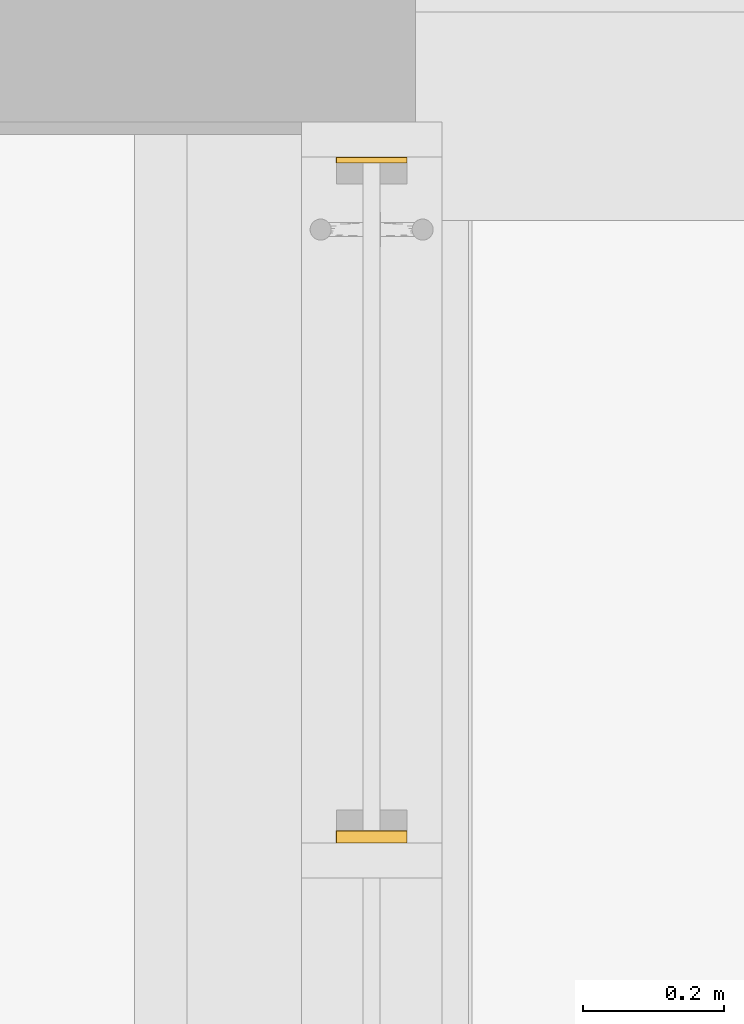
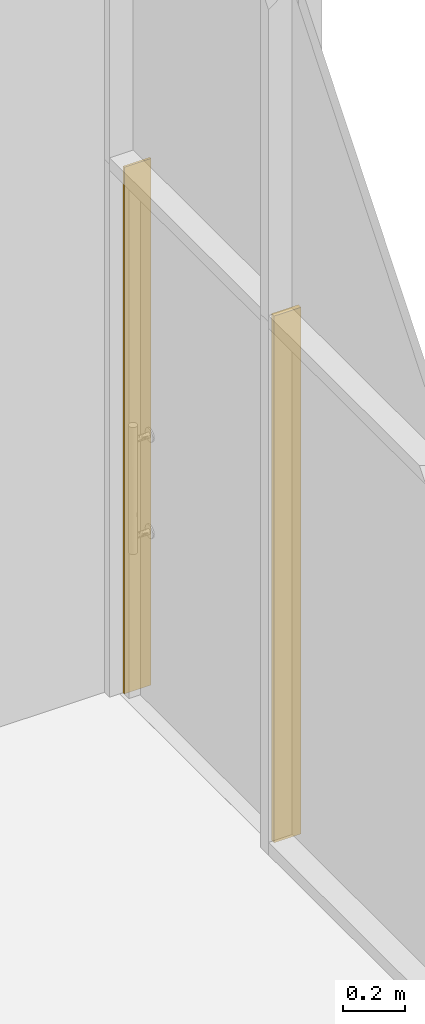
# One storey, part 79 of 100: 1 curtain wall, 1 opening, 1 element without a shape of its own.
"""IFC2X3 building model written with IfcOpenShell, lengths in millimetres."""

from ifc_helpers import new_model, entity, si_unit, converted_unit, derived_unit, direction, frame, frame_2d, origin, place, context, subcontext, project, spatial, rectangle, extrude, material, layer, layer_set, layer_usage, type_object, element, aggregate, save


model = new_model("IFC2X3")

# Units and contexts
model_context = context("Model", 3, precision=0.01, world=origin(), true_north=direction((6.123031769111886e-17, 1.0)))
body_context = subcontext(model_context, "Body", "Model", "MODEL_VIEW")
ifc_project = project(units=[si_unit("LENGTHUNIT", "METRE", prefix="MILLI"), si_unit("AREAUNIT", "SQUARE_METRE"), si_unit("VOLUMEUNIT", "CUBIC_METRE"), converted_unit("PLANEANGLEUNIT", "DEGREE", entity("IfcRatioMeasure", 0.017453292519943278), si_unit("PLANEANGLEUNIT", "RADIAN"), dimensions=[0, 0, 0, 0, 0, 0, 0]), si_unit("MASSUNIT", "GRAM", prefix="KILO"), derived_unit("MASSDENSITYUNIT", [(si_unit("MASSUNIT", "GRAM", prefix="KILO"), 1), (si_unit("LENGTHUNIT", "METRE"), -3)]), derived_unit("MOMENTOFINERTIAUNIT", [(si_unit("LENGTHUNIT", "METRE"), 4)]), si_unit("TIMEUNIT", "SECOND"), si_unit("FREQUENCYUNIT", "HERTZ"), si_unit("THERMODYNAMICTEMPERATUREUNIT", "DEGREE_CELSIUS"), derived_unit("THERMALTRANSMITTANCEUNIT", [(si_unit("MASSUNIT", "GRAM", prefix="KILO"), 1), (si_unit("THERMODYNAMICTEMPERATUREUNIT", "KELVIN"), -1), (si_unit("TIMEUNIT", "SECOND"), -3)]), derived_unit("VOLUMETRICFLOWRATEUNIT", [(si_unit("LENGTHUNIT", "METRE"), 3), (si_unit("TIMEUNIT", "SECOND"), -1)]), derived_unit("MASSFLOWRATEUNIT", [(si_unit("MASSUNIT", "GRAM", prefix="KILO"), 1), (si_unit("TIMEUNIT", "SECOND"), -1)]), derived_unit("ROTATIONALFREQUENCYUNIT", [(si_unit("TIMEUNIT", "SECOND"), -1)]), si_unit("ELECTRICCURRENTUNIT", "AMPERE"), si_unit("ELECTRICVOLTAGEUNIT", "VOLT"), si_unit("POWERUNIT", "WATT"), si_unit("FORCEUNIT", "NEWTON", prefix="KILO"), si_unit("ILLUMINANCEUNIT", "LUX"), si_unit("LUMINOUSFLUXUNIT", "LUMEN"), si_unit("LUMINOUSINTENSITYUNIT", "CANDELA"), derived_unit("USERDEFINED", [(si_unit("MASSUNIT", "GRAM", prefix="KILO"), -1), (si_unit("LENGTHUNIT", "METRE"), -2), (si_unit("TIMEUNIT", "SECOND"), 3), (si_unit("LUMINOUSFLUXUNIT", "LUMEN"), 1)]), derived_unit("SOUNDPOWERUNIT", [(si_unit("MASSUNIT", "GRAM", prefix="KILO"), 1), (si_unit("LENGTHUNIT", "METRE"), 2), (si_unit("TIMEUNIT", "SECOND"), -3)]), derived_unit("SOUNDPRESSUREUNIT", [(si_unit("MASSUNIT", "GRAM", prefix="KILO"), 1), (si_unit("LENGTHUNIT", "METRE"), -1), (si_unit("TIMEUNIT", "SECOND"), -2)]), derived_unit("LINEARVELOCITYUNIT", [(si_unit("LENGTHUNIT", "METRE"), 1), (si_unit("TIMEUNIT", "SECOND"), -1)]), si_unit("PRESSUREUNIT", "PASCAL"), derived_unit("USERDEFINED", [(si_unit("LENGTHUNIT", "METRE"), -2), (si_unit("MASSUNIT", "GRAM", prefix="KILO"), 1), (si_unit("TIMEUNIT", "SECOND"), -2)]), derived_unit("LINEARFORCEUNIT", [(si_unit("MASSUNIT", "GRAM", prefix="KILO"), 1), (si_unit("LENGTHUNIT", "METRE"), 1), (si_unit("TIMEUNIT", "SECOND"), -2), (si_unit("LENGTHUNIT", "METRE"), -1)]), derived_unit("PLANARFORCEUNIT", [(si_unit("MASSUNIT", "GRAM", prefix="KILO"), 1), (si_unit("LENGTHUNIT", "METRE"), 1), (si_unit("TIMEUNIT", "SECOND"), -2), (si_unit("LENGTHUNIT", "METRE"), -2)])], contexts=[model_context])

# Site, building, storey
site_placement = place(None, frame((-14167.972527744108, -657.2125860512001, 0.0)))
site = spatial("IfcSite", under=ifc_project, at=site_placement, Name="Default", CompositionType="ELEMENT")
building_placement = place(site_placement, origin())
building = spatial("IfcBuilding", under=site, at=building_placement, Name="Sample Building", CompositionType="ELEMENT")
storey_placement = place(building_placement, origin())
storey = spatial("IfcBuildingStorey", under=building, at=storey_placement, Name="지상 1층", CompositionType="ELEMENT", Elevation=0.0)

# Curtain walls, opening
curtain_wall_type_1 = type_object("IfcCurtainWallType", Name="커튼월:CW112-스테인리스 스틸 커튼월", PredefinedType="NOTDEFINED")
curtain_wall_1_placement = place(storey_placement, origin())
curtain_wall_1 = element("IfcCurtainWall", 1, at=curtain_wall_1_placement, inside=storey, type_object=curtain_wall_type_1, Name="커튼월:CW112-스테인리스 스틸 커튼월", ObjectType="커튼월:CW112-스테인리스 스틸 커튼월")
ifc_material = material(Name="KBIMS-콘크리트")
ifc_layer = layer(ifc_material, 100.0)
ifc_layer_set = layer_set([ifc_layer], Name="커튼월:CW112-스테인리스 스틸 커튼월")
ifc_layer_usage = layer_usage(ifc_layer_set, "AXIS2", "NEGATIVE", 50.0)
curtain_wall_type_2 = type_object("IfcCurtainWallType", Name="기본 벽:WA111-철근콘크리트구조 벽 100mm", PredefinedType="NOTDEFINED", material=ifc_layer_set)
curtain_wall_2_placement = place(storey_placement, frame((51405.4638289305, 11232.177624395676, 80.0), z_axis=(0.0, 0.0, 1.0), x_axis=(0.0, 1.0, 0.0)))
curtain_wall_2 = element("IfcCurtainWall", 2, at=curtain_wall_2_placement, type_object=curtain_wall_type_2, material=ifc_layer_usage, Name="기본 벽:WA111-철근콘크리트구조 벽 100mm", ObjectType="기본 벽:WA111-철근콘크리트구조 벽 100mm", context=body_context, shape_type="SweptSolid", body=[
    extrude(rectangle(XDim=100.00000000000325, YDim=975.0354145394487, at=frame_2d((487.5177072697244, -3.4070524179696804e-12), x_axis=(0.0, -1.0))), origin(), (0.0, 0.0, 1.0), 2075.0),
])
opening_placement = place(curtain_wall_2_placement, frame((967.0351054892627, 50.0, -25.0)))
element("IfcOpeningElement", 3, at=opening_placement, cuts=curtain_wall_2, Name="DR111-외여닫이문(철재, 일반, 양개):DR111-외여닫이문(유리, 일반, 양개) 950x2100mm:1", ObjectType="Opening", context=body_context, shape_type="SweptSolid", body=[
    extrude(rectangle(XDim=2099.9999999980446, YDim=949.9999999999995, at=frame_2d((1049.9999999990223, 474.9999999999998), x_axis=(1.0, 0.0))), frame((0.0, 0.0, 0.0), z_axis=(0.0, -1.0, 0.0), x_axis=(0.0, 0.0, 1.0)), (0.0, 0.0, 1.0), 100.0),
])
aggregate(curtain_wall_1, [curtain_wall_2])

save(model, "model.ifc")
